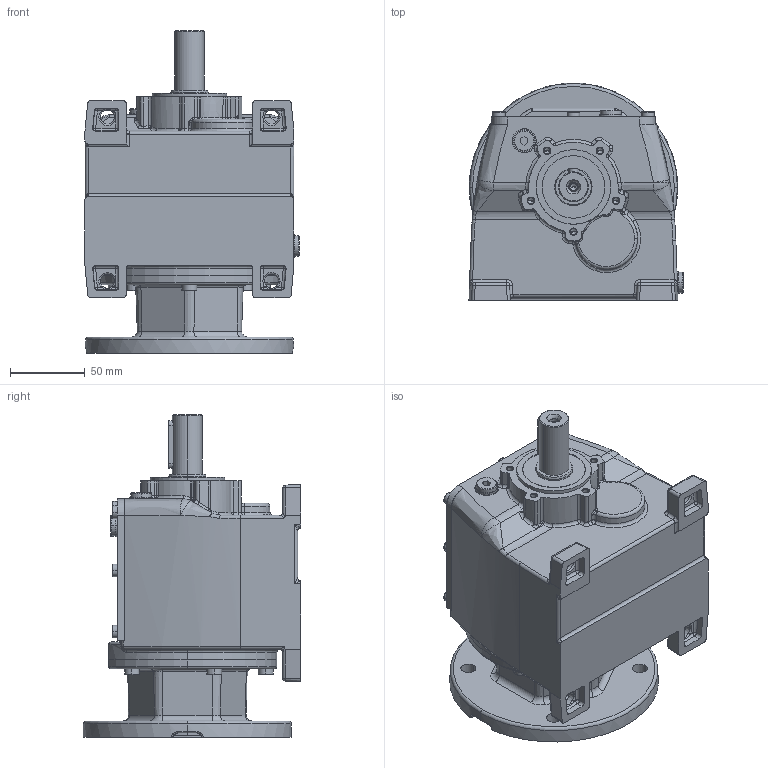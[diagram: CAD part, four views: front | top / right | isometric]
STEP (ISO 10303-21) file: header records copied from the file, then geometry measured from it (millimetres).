
FILE_DESCRIPTION (( 'STEP AP214' ), '1' );
FILE_NAME ('MTC23A-71-115.STEP', '2006-05-03T10:50:09', ( '' ), ( '' ), 'SwSTEP 2.0', 'SolidWorks 2004146', '' );
FILE_SCHEMA (( 'AUTOMOTIVE_DESIGN' ));
Products named in the file (4): D6912_Šroub DIN 6912 - M6x20; Skrin MTC2_A_MTC23_71AP; pøíruba d55 MRT60a_pøíruba 95-115-140; MTC23A-71-115
Assembly tree (8 placements, depth 2):
  MTC23A-71-115
    pøíruba d55 MRT60a_pøíruba 95-115-140
    D6912_Šroub DIN 6912 - M6x20  x6
    Skrin MTC2_A_MTC23_71AP
Bounding box: 143.57 x 145.76 x 216.5 mm (x, y, z)
Volume: 1994959.4 mm3; surface area: 160463.4 mm2
Topology: 8 solids, 8 shells, 1424 faces, 3308 edges, 1918 vertices
Faces by surface type: plane 361, torus 347, cylinder 327, cone 209, bspline 154, sphere 26
Entity records: 124771 total; most frequent: CARTESIAN_POINT 93362, DIRECTION 6167, ORIENTED_EDGE 5860, EDGE_CURVE 2930, AXIS2_PLACEMENT_3D 2590, VERTEX_POINT 1760, CIRCLE 1494, EDGE_LOOP 1332
